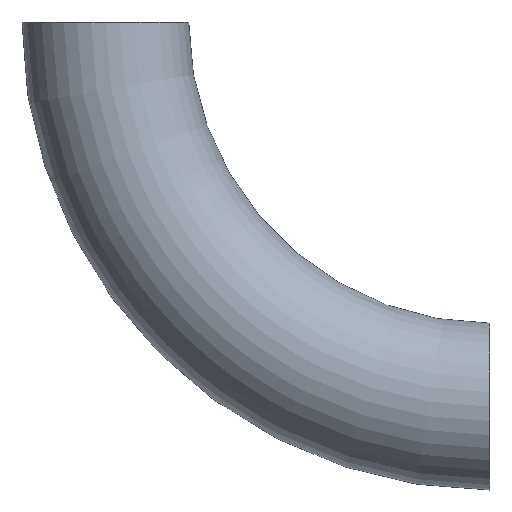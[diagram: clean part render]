
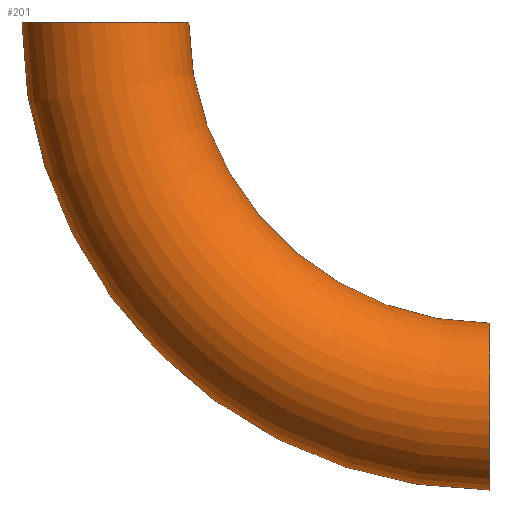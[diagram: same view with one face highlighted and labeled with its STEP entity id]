
A CAD part, front view. The second image highlights one B-rep face of the part: STEP entity #201.
In plain terms, the highlighted toroidal (fillet/blend) face has major radius 205 mm and minor radius 44.45 mm.
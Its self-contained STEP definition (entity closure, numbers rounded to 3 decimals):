
#5 = AXIS2_PLACEMENT_3D ( 'NONE', #40, #153, #15 ) ;
#15 = DIRECTION ( 'NONE',  ( 0., 0., 1. ) ) ;
#16 = EDGE_CURVE ( 'NONE', #126, #113, #195, .T. ) ;
#25 = EDGE_CURVE ( 'NONE', #115, #126, #33, .T. ) ;
#28 = CARTESIAN_POINT ( 'NONE',  ( 0., 0., -249.45 ) ) ;
#33 = CIRCLE ( 'NONE', #5, 44.45 ) ;
#40 = CARTESIAN_POINT ( 'NONE',  ( 0., 0., -205. ) ) ;
#51 = ORIENTED_EDGE ( 'NONE', *, *, #25, .T. ) ;
#52 = FACE_OUTER_BOUND ( 'NONE', #109, .T. ) ;
#53 = CIRCLE ( 'NONE', #86, 44.45 ) ;
#73 = AXIS2_PLACEMENT_3D ( 'NONE', #114, #90, #206 ) ;
#82 = ORIENTED_EDGE ( 'NONE', *, *, #159, .F. ) ;
#86 = AXIS2_PLACEMENT_3D ( 'NONE', #131, #103, #181 ) ;
#89 = DIRECTION ( 'NONE',  ( 0., 0., 1. ) ) ;
#90 = DIRECTION ( 'NONE',  ( 0., 1., 0. ) ) ;
#91 = DIRECTION ( 'NONE',  ( 0., 1., 0. ) ) ;
#101 = AXIS2_PLACEMENT_3D ( 'NONE', #105, #222, #110 ) ;
#103 = DIRECTION ( 'NONE',  ( 0., 0., 1. ) ) ;
#105 = CARTESIAN_POINT ( 'NONE',  ( 0., 0., 0. ) ) ;
#109 = EDGE_LOOP ( 'NONE', ( #82, #51, #175, #221 ) ) ;
#110 = DIRECTION ( 'NONE',  ( 0., 0., 1. ) ) ;
#113 = VERTEX_POINT ( 'NONE', #133 ) ;
#114 = CARTESIAN_POINT ( 'NONE',  ( 0., 0., 0. ) ) ;
#115 = VERTEX_POINT ( 'NONE', #28 ) ;
#126 = VERTEX_POINT ( 'NONE', #238 ) ;
#130 = CARTESIAN_POINT ( 'NONE',  ( -249.45, 0., 0. ) ) ;
#131 = CARTESIAN_POINT ( 'NONE',  ( -205., 0., 0. ) ) ;
#133 = CARTESIAN_POINT ( 'NONE',  ( -160.55, 0., 0. ) ) ;
#153 = DIRECTION ( 'NONE',  ( -1., 0., 0. ) ) ;
#159 = EDGE_CURVE ( 'NONE', #115, #229, #198, .T. ) ;
#163 = EDGE_CURVE ( 'NONE', #229, #113, #53, .T. ) ;
#164 = AXIS2_PLACEMENT_3D ( 'NONE', #246, #91, #89 ) ;
#175 = ORIENTED_EDGE ( 'NONE', *, *, #16, .T. ) ;
#181 = DIRECTION ( 'NONE',  ( 1., 0., 0. ) ) ;
#195 = CIRCLE ( 'NONE', #164, 160.55 ) ;
#198 = CIRCLE ( 'NONE', #73, 249.45 ) ;
#201 = ADVANCED_FACE ( 'NONE', ( #52 ), #217, .T. ) ;
#206 = DIRECTION ( 'NONE',  ( 0., 0., 1. ) ) ;
#217 = TOROIDAL_SURFACE ( 'NONE', #101, 205., 44.45 ) ;
#221 = ORIENTED_EDGE ( 'NONE', *, *, #163, .F. ) ;
#222 = DIRECTION ( 'NONE',  ( 0., 1., 0. ) ) ;
#229 = VERTEX_POINT ( 'NONE', #130 ) ;
#238 = CARTESIAN_POINT ( 'NONE',  ( 0., 0., -160.55 ) ) ;
#246 = CARTESIAN_POINT ( 'NONE',  ( 0., 0., 0. ) ) ;
